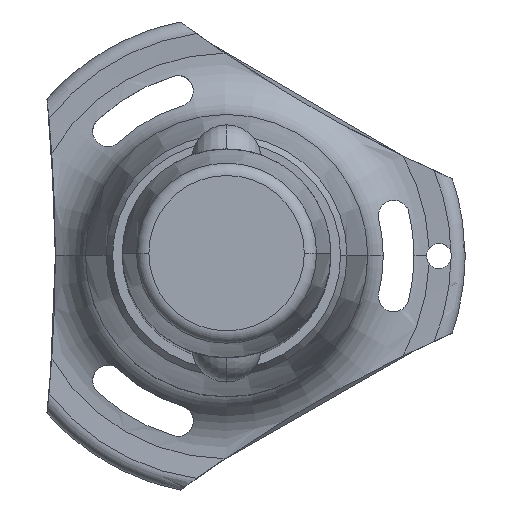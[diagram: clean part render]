
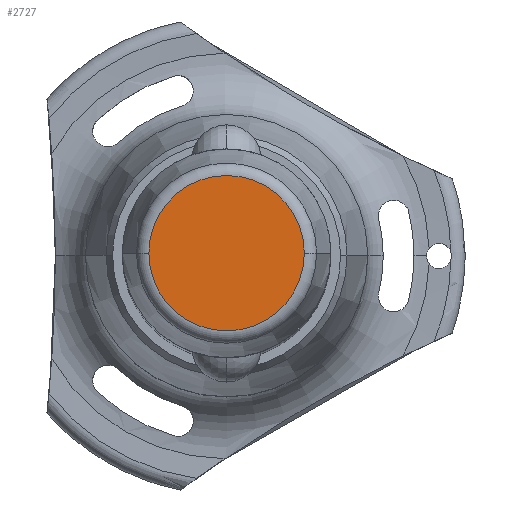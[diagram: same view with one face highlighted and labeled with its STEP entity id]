
A CAD part, top view. The second image highlights one B-rep face of the part: STEP entity #2727.
In plain terms, the highlighted planar face has unit normal (0, 0, 1).
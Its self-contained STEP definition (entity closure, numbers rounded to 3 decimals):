
#56 = DIRECTION ( 'NONE',  ( 0., 0., 1. ) ) ;
#188 = CARTESIAN_POINT ( 'NONE',  ( 0., 0., 22. ) ) ;
#192 = EDGE_LOOP ( 'NONE', ( #1337, #1583 ) ) ;
#193 = AXIS2_PLACEMENT_3D ( 'NONE', #2735, #1598, #2530 ) ;
#678 = CARTESIAN_POINT ( 'NONE',  ( 0., 0., 22. ) ) ;
#955 = CIRCLE ( 'NONE', #193, 9.302 ) ;
#1317 = FACE_OUTER_BOUND ( 'NONE', #192, .T. ) ;
#1337 = ORIENTED_EDGE ( 'NONE', *, *, #1411, .T. ) ;
#1411 = EDGE_CURVE ( 'NONE', #1850, #1436, #955, .T. ) ;
#1436 = VERTEX_POINT ( 'NONE', #1870 ) ;
#1478 = EDGE_CURVE ( 'NONE', #1436, #1850, #2000, .T. ) ;
#1530 = DIRECTION ( 'NONE',  ( 0., 0., 1. ) ) ;
#1583 = ORIENTED_EDGE ( 'NONE', *, *, #1478, .T. ) ;
#1598 = DIRECTION ( 'NONE',  ( 0., 0., 1. ) ) ;
#1806 = AXIS2_PLACEMENT_3D ( 'NONE', #678, #56, #2341 ) ;
#1850 = VERTEX_POINT ( 'NONE', #2719 ) ;
#1870 = CARTESIAN_POINT ( 'NONE',  ( -9.302, 0., 22. ) ) ;
#1990 = DIRECTION ( 'NONE',  ( 1., 0., 0. ) ) ;
#2000 = CIRCLE ( 'NONE', #1806, 9.302 ) ;
#2341 = DIRECTION ( 'NONE',  ( 1., 0., 0. ) ) ;
#2443 = PLANE ( 'NONE',  #2481 ) ;
#2481 = AXIS2_PLACEMENT_3D ( 'NONE', #188, #1530, #1990 ) ;
#2530 = DIRECTION ( 'NONE',  ( 1., 0., 0. ) ) ;
#2719 = CARTESIAN_POINT ( 'NONE',  ( 9.302, 0., 22. ) ) ;
#2727 = ADVANCED_FACE ( 'NONE', ( #1317 ), #2443, .T. ) ;
#2735 = CARTESIAN_POINT ( 'NONE',  ( 0., 0., 22. ) ) ;
